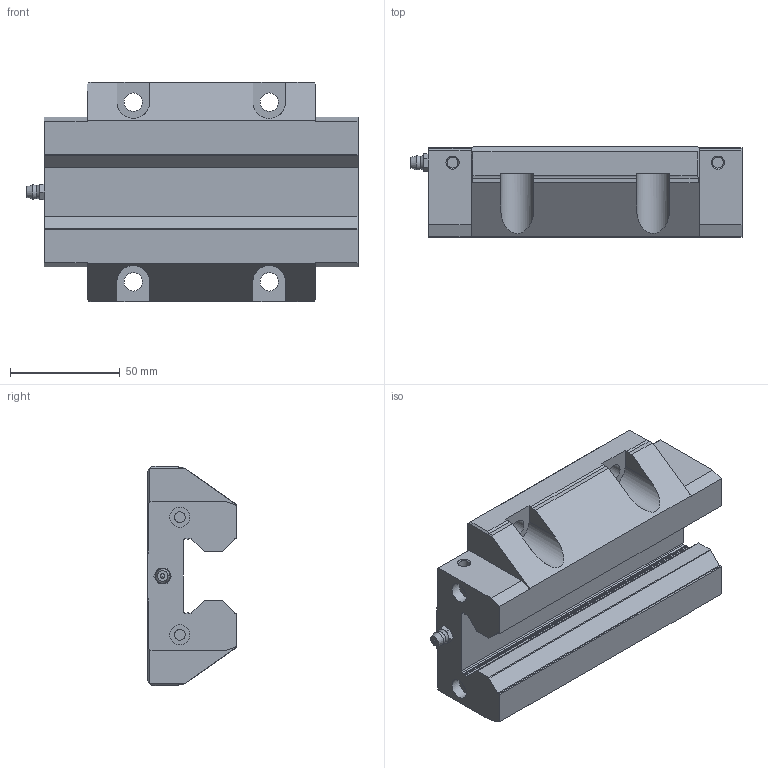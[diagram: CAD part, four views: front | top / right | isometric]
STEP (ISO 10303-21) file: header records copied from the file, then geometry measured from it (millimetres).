
FILE_DESCRIPTION(/* description */ ('STEP AP214'),/* implementation_level */ '2;1');
FILE_NAME(/* name */ 'ERG35P6LCC1N0______CAD_NO_(A-MT61)',/* time_stamp */ '2026-05-18T11:18:13+02:00',/* author */ ('License CC BY-ND 4.0'),/* organization */ ('CADENAS'),/* preprocessor_version */ 'ST-DEVELOPER v20',/* originating_system */ 'PARTsolutions',/* authorisation */ ' ');
FILE_SCHEMA (('AUTOMOTIVE_DESIGN {1 0 10303 214 3 1 1}'));
Length unit declared in the file: millimetre
Products named in the file (3): ERG35P6LCC1N0______CAD_NO_(A-MT61); ERG35LC01 Slider; hsr_ftht_A-M6F_grease_nipple_joint
Assembly tree (2 placements, depth 2):
  ERG35P6LCC1N0______CAD_NO_(A-MT61)
    ERG35LC01 Slider
    hsr_ftht_A-M6F_grease_nipple_joint
Bounding box: 151.41 x 41 x 100 mm (x, y, z)
Volume: 369613.8 mm3; surface area: 55036 mm2
Topology: 2 solids, 2 shells, 184 faces, 469 edges, 308 vertices
Faces by surface type: plane 109, cylinder 51, cone 21, sphere 2, torus 1
Full cylindrical faces by diameter (mm): 4.917 x6, 5 x4, 6 x1, 8.376 x6, 9.2 x4, 10.2 x2
Entity records: 5423 total; most frequent: CARTESIAN_POINT 989, DIRECTION 900, ORIENTED_EDGE 848, EDGE_CURVE 424, AXIS2_PLACEMENT_3D 313, VERTEX_POINT 304, LINE 274, VECTOR 274
